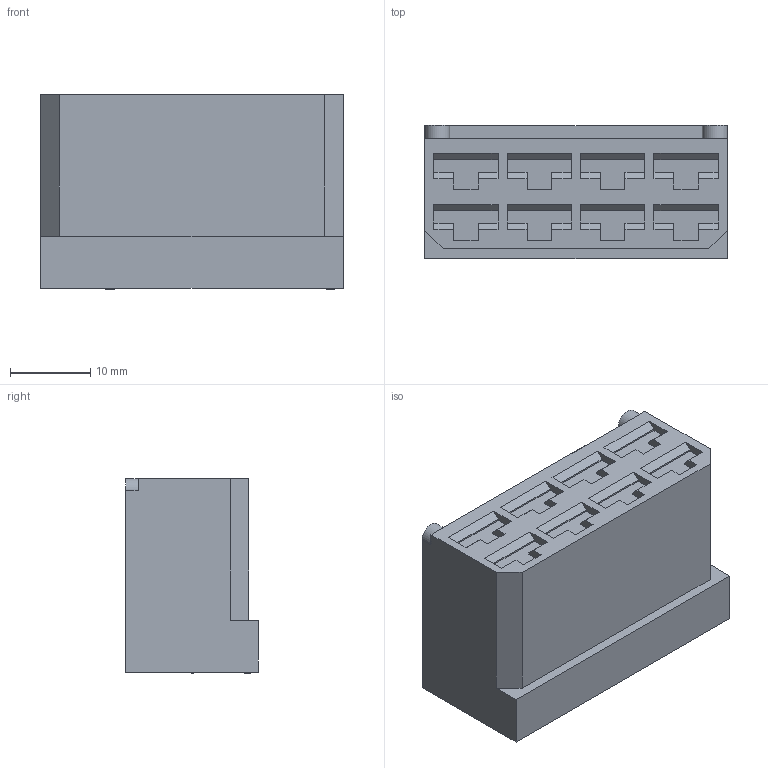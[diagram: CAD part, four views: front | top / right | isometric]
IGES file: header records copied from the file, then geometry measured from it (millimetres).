
Start section:  PTC IGES file: c-163007-t-3d.igs
Global section: file name: c-163007-t-3d.igs; native system: Creo Parametric by PTC Inc.; preprocessor: 2019030; author: workeradm; organization: Unknown; units: millimetre
Bounding box: 37.69 x 16.56 x 24.28 mm (x, y, z)
Surface area: 4165.3 mm2 (no closed solid volume)
Topology: 0 solids, 0 shells, 255 faces, 1362 edges, 1362 vertices
Faces by surface type: bspline 253, revolution 2
